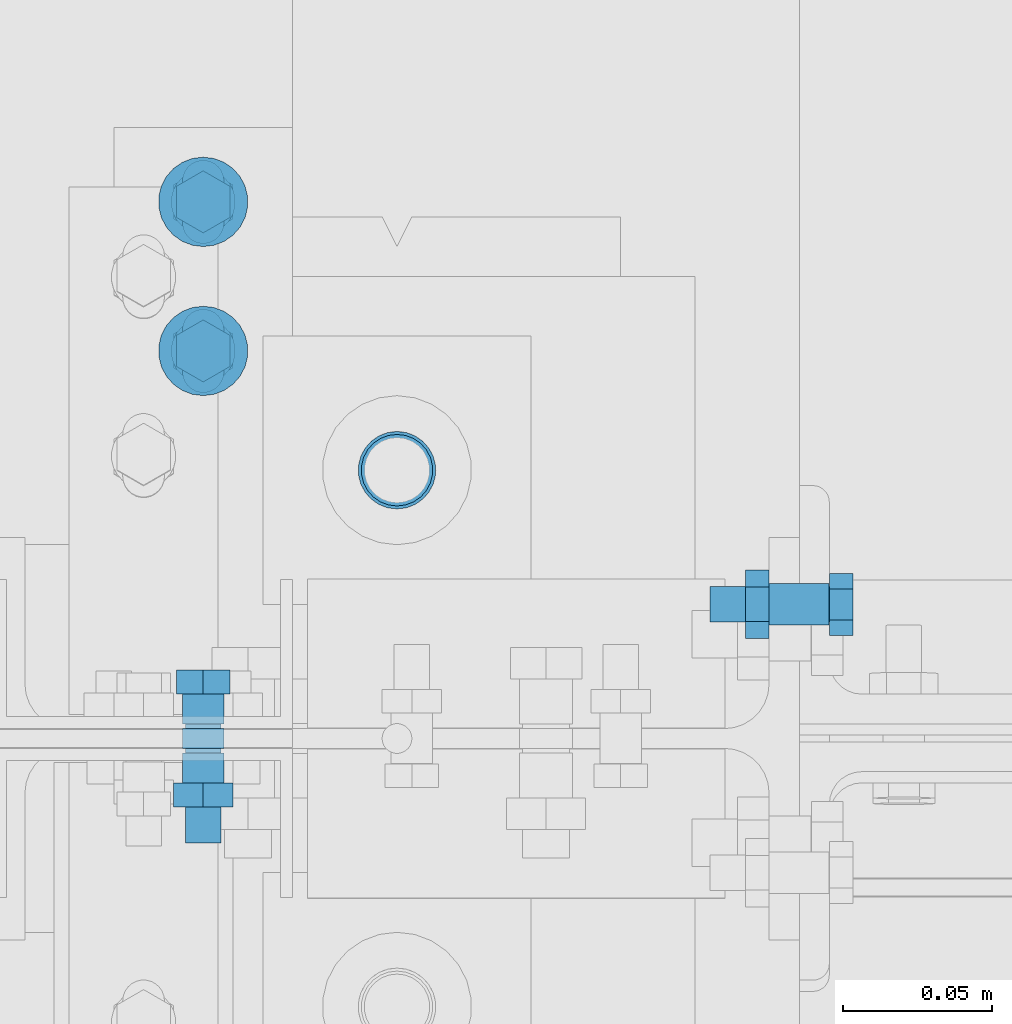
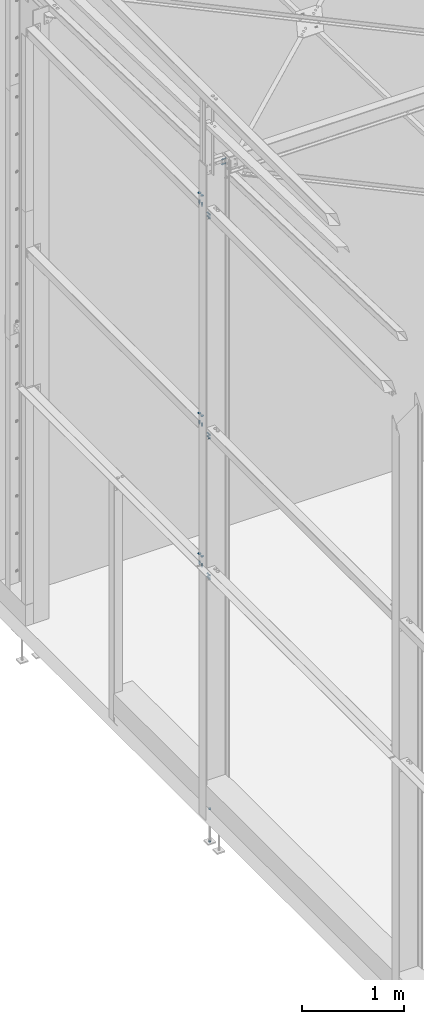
# One storey, part 238 of 362: 13 mechanical fasteners.
"""IFC2X3 building model written with IfcOpenShell, lengths in millimetres."""

import ifcopenshell
import ifcopenshell.guid

model = None  # the IFC model being written
_history = None  # IfcOwnerHistory: only IFC2X3 demands one
_inside = {}  # id of a spatial element -> (the spatial element, [elements in it])
_under = {}  # id of a project, library or spatial element -> (it, [spatial elements below it])
_declared = {}  # id of a project -> (the project, [libraries it declares])
_typed = {}  # id of a type object -> (the type object, [elements of that type])
_made_of = {}  # id of a material, layer set ... -> (it, [elements and type objects made of it])


def new_model(schema):
    """Start an empty IFC model of exactly this schema.

    Asked for "IFC4X3", IfcOpenShell would pick the latest addendum, in which some entities
    have other attributes; the version numbers below select the first issue.
    IFC2X3 requires an IfcOwnerHistory on every rooted entity: one is made here for all.
    """
    global model, _history
    if schema == "IFC4X3":
        model = ifcopenshell.file(schema_version=(4, 3, 0, 0))
    else:
        model = ifcopenshell.file(schema=schema)
    _inside.clear()
    _under.clear()
    _declared.clear()
    _typed.clear()
    _made_of.clear()
    _history = None
    if model.schema == "IFC2X3":
        org = make("IfcOrganization", Name="unknown")
        user = make(
            "IfcPersonAndOrganization",
            ThePerson=make("IfcPerson", FamilyName="unknown"),
            TheOrganization=org,
        )
        app = make(
            "IfcApplication",
            ApplicationDeveloper=org,
            Version="unknown",
            ApplicationFullName="unknown",
            ApplicationIdentifier="unknown",
        )
        _history = make(
            "IfcOwnerHistory",
            OwningUser=user,
            OwningApplication=app,
            ChangeAction="ADDED",
            CreationDate=0,
        )
    return model


def make(cls, **values):
    """One entity of the class cls with the attributes given. An attribute that is None is left unset."""
    return model.create_entity(
        cls, **{name: value for name, value in values.items() if value is not None}
    )


def rooted(cls, **values):
    """An entity with a GlobalId (a new one), such as an element, a storey or a relation."""
    return make(cls, GlobalId=ifcopenshell.guid.new(), OwnerHistory=_history, **values)


def si_unit(unit_type, name, prefix=None):
    """IfcSIUnit, for example si_unit("LENGTHUNIT", "METRE", prefix="MILLI")."""
    return make("IfcSIUnit", UnitType=unit_type, Prefix=prefix, Name=name)


def assignment(units):
    """IfcUnitAssignment: the units of a project."""
    return None if units is None else make("IfcUnitAssignment", Units=units)


def point(xyz):
    """IfcCartesianPoint."""
    return None if xyz is None else make("IfcCartesianPoint", Coordinates=xyz)


def direction(xyz):
    """IfcDirection."""
    return None if xyz is None else make("IfcDirection", DirectionRatios=xyz)


def frame(location, z_axis=None, x_axis=None):
    """IfcAxis2Placement3D, a coordinate frame: its origin and axes. An axis left out is left unset."""
    return make(
        "IfcAxis2Placement3D",
        Location=point(location),
        Axis=direction(z_axis),
        RefDirection=direction(x_axis),
    )


def frame_2d(location, x_axis=None):
    """IfcAxis2Placement2D, a coordinate frame in the plane: its origin and x axis."""
    return make(
        "IfcAxis2Placement2D", Location=point(location), RefDirection=direction(x_axis)
    )


def origin_with_axes():
    """The frame at (0, 0, 0) with the z axis (0, 0, 1) and the x axis (1, 0, 0) written out."""
    return frame((0.0, 0.0, 0.0), z_axis=(0.0, 0.0, 1.0), x_axis=(1.0, 0.0, 0.0))


def origin_2d_with_axis():
    """The frame at (0, 0) in the plane with the x axis (1, 0) written out."""
    return frame_2d((0.0, 0.0), x_axis=(1.0, 0.0))


def place(relative_to, where):
    """IfcLocalPlacement: puts the frame where relative to a parent placement (None: the world)."""
    return make(
        "IfcLocalPlacement", PlacementRelTo=relative_to, RelativePlacement=where
    )


def context(
    kind, dimensions, precision=None, world=None, true_north=None, identifier=None
):
    """IfcGeometricRepresentationContext, for example the 3D "Model" context."""
    return make(
        "IfcGeometricRepresentationContext",
        ContextIdentifier=identifier,
        ContextType=kind,
        CoordinateSpaceDimension=dimensions,
        Precision=precision,
        WorldCoordinateSystem=world,
        TrueNorth=true_north,
    )


def subcontext(parent, identifier, kind, view, scale=None):
    """IfcGeometricRepresentationSubContext, for example "Body" below "Model"."""
    return make(
        "IfcGeometricRepresentationSubContext",
        ContextIdentifier=identifier,
        ContextType=kind,
        ParentContext=parent,
        TargetScale=scale,
        TargetView=view,
    )


def project(units=None, contexts=None):
    """IfcProject with its units and contexts."""
    return rooted(
        "IfcProject",
        Name="project",
        RepresentationContexts=contexts,
        UnitsInContext=assignment(units),
    )


def spatial(cls, under=None, at=None, **own):
    """A site, building, storey or space (cls), placed at a placement, below another one or the project."""
    s = rooted(cls, ObjectPlacement=at, **own)
    if under is not None:
        _under.setdefault(under.id(), (under, []))[1].append(s)
    return s


def polyline(points):
    """IfcPolyline through the points."""
    return make("IfcPolyline", Points=[point(p) for p in points])


def circle_curve(where, radius):
    """IfcCircle in the frame where."""
    return make("IfcCircle", Position=where, Radius=radius)


def parameter(value):
    """IfcParameterValue: where a trimmed curve begins or ends, as a parameter of its basis curve."""
    return model.create_entity("IfcParameterValue", value)


def trimmed(basis, trim1, trim2, sense, master):
    """IfcTrimmedCurve: the piece of a basis curve between two trims."""
    return make(
        "IfcTrimmedCurve",
        BasisCurve=basis,
        Trim1=trim1,
        Trim2=trim2,
        SenseAgreement=sense,
        MasterRepresentation=master,
    )


def segment(curve, same_sense, transition):
    """IfcCompositeCurveSegment."""
    return make(
        "IfcCompositeCurveSegment",
        Transition=transition,
        SameSense=same_sense,
        ParentCurve=curve,
    )


def composite_curve(segments, self_intersect=None):
    """IfcCompositeCurve: segments joined end to end."""
    return make("IfcCompositeCurve", Segments=segments, SelfIntersect=self_intersect)


def profile(cls, at=None, kind="AREA", **sizes):
    """A parametric profile (cls). Its sizes go by their IFC names, for example OverallWidth=200.0."""
    return make(cls, ProfileType=kind, Position=at, **sizes)


def circle(**sizes):
    """IfcCircleProfileDef."""
    return profile("IfcCircleProfileDef", **sizes)


def outline(outer, holes=None, kind="AREA"):
    """IfcArbitraryClosedProfileDef: a profile drawn as a closed curve; with holes, ...WithVoids."""
    if holes is None:
        return make("IfcArbitraryClosedProfileDef", ProfileType=kind, OuterCurve=outer)
    return make(
        "IfcArbitraryProfileDefWithVoids",
        ProfileType=kind,
        OuterCurve=outer,
        InnerCurves=holes,
    )


def extrude(swept, where, along, depth):
    """IfcExtrudedAreaSolid: the profile swept, set in the frame where, extruded along a direction by depth."""
    return make(
        "IfcExtrudedAreaSolid",
        SweptArea=swept,
        Position=where,
        ExtrudedDirection=direction(along),
        Depth=depth,
    )


def shape(context_of_items, identifier, shape_type, items):
    """IfcShapeRepresentation: the items that make up one representation, for example the "Body"."""
    return make(
        "IfcShapeRepresentation",
        ContextOfItems=context_of_items,
        RepresentationIdentifier=identifier,
        RepresentationType=shape_type,
        Items=items,
    )


def source(mapping_origin, context_of_items, identifier, shape_type, items):
    """IfcRepresentationMap: a shape defined once, which mapped items show again and again."""
    return make(
        "IfcRepresentationMap",
        MappingOrigin=mapping_origin,
        MappedRepresentation=shape(context_of_items, identifier, shape_type, items),
    )


def transform(
    local_origin,
    x_axis=None,
    y_axis=None,
    z_axis=None,
    scale=None,
    scale2=None,
    scale3=None,
    uniform=True,
):
    """IfcCartesianTransformationOperator3D, or its non-uniform kind. x_axis, y_axis, z_axis: its Axis1, 2, 3."""
    if uniform:
        return make(
            "IfcCartesianTransformationOperator3D",
            Axis1=direction(x_axis),
            Axis2=direction(y_axis),
            LocalOrigin=point(local_origin),
            Scale=scale,
            Axis3=direction(z_axis),
        )
    return make(
        "IfcCartesianTransformationOperator3DnonUniform",
        Axis1=direction(x_axis),
        Axis2=direction(y_axis),
        LocalOrigin=point(local_origin),
        Scale=scale,
        Axis3=direction(z_axis),
        Scale2=scale2,
        Scale3=scale3,
    )


def mapped(mapping_source, mapping_target):
    """IfcMappedItem: shows the shape of a source again, moved by a transform."""
    return make(
        "IfcMappedItem", MappingSource=mapping_source, MappingTarget=mapping_target
    )


def material(Name=None, Category=None):
    """IfcMaterial."""
    return make("IfcMaterial", Name=Name, Category=Category)


def made_of(thing, what):
    """Note that an element or type object is made of a material, layer set ...; save() writes the relation."""
    if what is not None:
        _made_of.setdefault(what.id(), (what, []))[1].append(thing)
    return thing


def type_object(cls, material=None, **own):
    """A type object (cls), such as IfcWallType, which elements share."""
    return made_of(rooted(cls, **own), material)


def element(
    cls,
    number,
    at=None,
    inside=None,
    cuts=None,
    type_object=None,
    material=None,
    context=None,
    identifier="Body",
    shape_type=None,
    held_by="IfcProductDefinitionShape",
    body=None,
    shapes=None,
    **own,
):
    """One element of the class cls, such as IfcWall. Its Tag is "e" and its number.

    at: its placement. inside: the storey or other place that contains it. cuts: it is an
    opening in that element (IfcRelVoidsElement). A single representation is given by context,
    identifier, shape_type and body (its items); several are given by shapes. held_by: the class
    of the entity that holds the representations. save() writes the other relations.
    """
    e = rooted(cls, Tag="e%d" % number, ObjectPlacement=at, **own)
    if body is not None:
        shapes = [shape(context, identifier, shape_type, body)]
    if shapes is not None:
        e.Representation = make(held_by, Representations=shapes)
    if inside is not None:
        _inside.setdefault(inside.id(), (inside, []))[1].append(e)
    if cuts is not None:
        rooted(
            "IfcRelVoidsElement", RelatingBuildingElement=cuts, RelatedOpeningElement=e
        )
    if type_object is not None:
        _typed.setdefault(type_object.id(), (type_object, []))[1].append(e)
    return made_of(e, material)


def aggregate(whole, parts):
    """IfcRelAggregates: a whole, such as a stair, and the parts it consists of."""
    return rooted("IfcRelAggregates", RelatingObject=whole, RelatedObjects=parts)


def save(model, path):
    """Write the relations noted so far, then the file.

    IfcRelAggregates (storeys below a building ...), IfcRelContainedInSpatialStructure (elements
    in a storey), IfcRelDefinesByType, IfcRelAssociatesMaterial and IfcRelDeclares: one each for
    every whole, place, type object, material and project.
    """
    for whole, parts in _under.values():
        aggregate(whole, parts)
    for where, things in _inside.values():
        rooted(
            "IfcRelContainedInSpatialStructure",
            RelatedElements=things,
            RelatingStructure=where,
        )
    for kind, things in _typed.values():
        rooted("IfcRelDefinesByType", RelatedObjects=things, RelatingType=kind)
    for what, things in _made_of.values():
        rooted("IfcRelAssociatesMaterial", RelatedObjects=things, RelatingMaterial=what)
    for by, libraries in _declared.values():
        rooted("IfcRelDeclares", RelatingContext=by, RelatedDefinitions=libraries)
    model.write(path)


model = new_model("IFC2X3")

# Units and contexts
model_context = context("Model", 3, precision=1e-05, world=origin_with_axes())
body_context = subcontext(model_context, "Body", "Model", "MODEL_VIEW")
ifc_project = project(units=[si_unit("LENGTHUNIT", "METRE", prefix="MILLI"), si_unit("AREAUNIT", "SQUARE_METRE"), si_unit("VOLUMEUNIT", "CUBIC_METRE"), si_unit("MASSUNIT", "GRAM", prefix="KILO"), si_unit("TIMEUNIT", "SECOND"), si_unit("PLANEANGLEUNIT", "RADIAN"), si_unit("SOLIDANGLEUNIT", "STERADIAN"), si_unit("THERMODYNAMICTEMPERATUREUNIT", "DEGREE_CELSIUS"), si_unit("LUMINOUSINTENSITYUNIT", "LUMEN")], contexts=[model_context])

# Site, building, storey
site_placement = place(None, origin_with_axes())
site = spatial("IfcSite", under=ifc_project, at=site_placement, Name="Undefined", CompositionType="ELEMENT")
building_placement = place(site_placement, origin_with_axes())
building = spatial("IfcBuilding", under=site, at=building_placement, Name="Undefined", CompositionType="ELEMENT")
storey_placement = place(building_placement, origin_with_axes())
storey = spatial("IfcBuildingStorey", under=building, at=storey_placement, Name="Undefined", CompositionType="ELEMENT", Elevation=0.0)

# Mechanical fasteners
ifc_material_1 = material(Name="6.8")
mechanical_fastener_type = type_object("IfcMechanicalFastenerType", Name="Bolt assembly")
shared_shape_1 = source(origin_with_axes(), body_context, "Body", "SweptSolid", [
    extrude(circle(Radius=15.0, at=origin_2d_with_axis()), frame((0.0, 0.0, 0.0), z_axis=(0.0, 1.0, 0.0), x_axis=(1.0, 0.0, 0.0)), (0.0, 0.0, 1.0), 4.1),
])
for number, where, z_axis, x_axis, name in (
    (1, (-110.000005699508, 11580.0000009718, 2859.9999839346), (1.0, 0.0, 0.0), (0.0, -1.0, 0.0), "Bolt assembly"),
    (2, (-110.000005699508, 11580.0000009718, 4549.99998404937), (1.0, 0.0, 0.0), (0.0, -1.0, 0.0), "Bolt assembly"),
    (3, (-110.000005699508, 11580.0000009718, 7200.0), (1.0, 0.0, 0.0), (0.0, -1.0, 0.0), "Bolt assembly"),
):
    element("IfcMechanicalFastener", number, at=place(storey_placement, frame(where, z_axis=z_axis, x_axis=x_axis)), inside=storey, type_object=mechanical_fastener_type, material=ifc_material_1, Name=name, NominalDiameter=30.0, NominalLength=4.0, context=body_context, shape_type="MappedRepresentation", body=[
        mapped(shared_shape_1, transform((0.0, 0.0, 0.0))),
        mapped(shared_shape_1, transform((49.9999999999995, 0.0, -3.63797880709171e-12))),
    ])
ifc_material_2 = material(Name="8.8-SB-ZINGUE")
shared_shape_2 = source(origin_with_axes(), body_context, "Body", "SweptSolid", [
    extrude(circle(Radius=7.0, at=origin_2d_with_axis()), frame((0.0, -3.29999884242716, 0.0), z_axis=(0.0, 1.0, 0.0), x_axis=(1.0, 0.0, 0.0)), (0.0, 0.0, 1.0), 6.6),
    extrude(circle(Radius=7.0, at=origin_2d_with_axis()), frame((0.0, -14.899999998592, 0.0), z_axis=(0.0, 1.0, 0.0), x_axis=(1.0, 0.0, 0.0)), (0.0, 0.0, 1.0), 10.0),
    extrude(circle(Radius=7.0, at=origin_2d_with_axis()), frame((0.0, 4.9000000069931, 0.0), z_axis=(0.0, 1.0, 0.0), x_axis=(1.0, 0.0, 0.0)), (0.0, 0.0, 1.0), 10.1),
    extrude(outline(polyline([(10.39230484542, 0.0), (5.19615242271, 9.00000000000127), (-5.19615242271, 9.00000000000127), (-10.39230484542, 0.0), (-5.19615242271, -9.00000000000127), (5.19615242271, -9.00000000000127), (10.39230484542, 0.0)])), frame((0.0, -22.919999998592, 0.0), z_axis=(0.0, 1.0, 0.0), x_axis=(1.0, 0.0, 0.0)), (0.0, 0.0, 1.0), 7.92),
    extrude(circle(Radius=6.0, at=origin_2d_with_axis()), frame((0.0, -14.999999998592, 0.0), z_axis=(0.0, 1.0, 0.0), x_axis=(1.0, 0.0, 0.0)), (0.0, 0.0, 1.0), 50.0),
    extrude(outline(polyline([(11.5008173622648, 0.0), (5.7504086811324, 9.96000000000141), (-5.7504086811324, 9.96000000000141), (-11.5008173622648, 0.0), (-5.7504086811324, -9.96000000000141), (5.7504086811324, -9.96000000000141), (11.5008173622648, 0.0)])), frame((0.0, 15.0000000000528, 0.0), z_axis=(0.0, 1.0, 0.0), x_axis=(1.0, 0.0, 0.0)), (0.0, 0.0, 1.0), 7.92),
])
mechanical_fastener_1_placement = place(storey_placement, frame((-110.000007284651, 11399.9999983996, 2679.9999839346), z_axis=(1.0, 0.0, 0.0), x_axis=(0.0, 0.0, 1.0)))
element("IfcMechanicalFastener", 4, at=mechanical_fastener_1_placement, inside=storey, type_object=mechanical_fastener_type, material=ifc_material_2, Name="Bolt assembly", NominalDiameter=12.0, NominalLength=50.0, context=body_context, shape_type="MappedRepresentation", body=[
    mapped(shared_shape_2, transform((0.0, 0.0, 0.0))),
    mapped(shared_shape_2, transform((40.0, 0.0, 0.0))),
])
shared_shape_3 = source(origin_with_axes(), body_context, "Body", "SweptSolid", [
    extrude(circle(Radius=7.0, at=origin_2d_with_axis()), frame((0.0, -3.89999843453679, 0.0), z_axis=(0.0, 1.0, 0.0), x_axis=(1.0, 0.0, 0.0)), (0.0, 0.0, 1.0), 4.0),
    extrude(outline(composite_curve([segment(polyline([(-7.0, 7.0), (7.0, 7.0)]), True, "CONTINUOUS"), segment(trimmed(circle_curve(frame_2d((7.0, 0.0), x_axis=(0.0, 1.0)), 7.0), [parameter(0.0)], [parameter(3.14159265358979)], False, "PARAMETER"), True, "CONTINUOUS"), segment(polyline([(7.0, -7.0), (-7.0, -7.0)]), True, "CONTINUOUS"), segment(trimmed(circle_curve(frame_2d((-7.0, 0.0), x_axis=(0.0, -1.0)), 7.0), [parameter(0.0)], [parameter(3.14159265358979)], False, "PARAMETER"), True, "DISCONTINUOUS")], self_intersect=False)), frame((0.0, -0.100011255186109, 0.0), z_axis=(0.0, 1.0, 0.0), x_axis=(1.0, 0.0, 0.0)), (0.0, 0.0, 1.0), 10.1),
    extrude(outline(polyline([(10.39230484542, 0.0), (5.19615242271, 9.00000000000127), (-5.19615242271, 9.00000000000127), (-10.39230484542, 0.0), (-5.19615242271, -9.00000000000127), (5.19615242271, -9.00000000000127), (10.39230484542, 0.0)])), frame((0.0, -11.9199984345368, 0.0), z_axis=(0.0, 1.0, 0.0), x_axis=(1.0, 0.0, 0.0)), (0.0, 0.0, 1.0), 7.92),
    extrude(circle(Radius=6.0, at=origin_2d_with_axis()), frame((0.0, -3.99999923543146, 0.0), z_axis=(0.0, 1.0, 0.0), x_axis=(1.0, 0.0, 0.0)), (0.0, 0.0, 1.0), 40.0),
    extrude(circle(Radius=10.8, at=origin_2d_with_axis()), frame((0.0, 10.0000000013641, 0.0), z_axis=(0.0, 1.0, 0.0), x_axis=(1.0, 0.0, 0.0)), (0.0, 0.0, 1.0), 3.96),
    extrude(outline(polyline([(11.5008173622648, 0.0), (5.7504086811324, 9.96000000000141), (-5.7504086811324, 9.96000000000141), (-11.5008173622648, 0.0), (-5.7504086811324, -9.96000000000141), (5.7504086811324, -9.96000000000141), (11.5008173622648, 0.0)])), frame((0.0, 13.96, 0.0), z_axis=(0.0, 1.0, 0.0), x_axis=(1.0, 0.0, 0.0)), (0.0, 0.0, 1.0), 7.92),
])
mechanical_fastener_2_placement = place(storey_placement, frame((-110.00000569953, 11580.0000009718, 2759.9999839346), z_axis=(1.0, 0.0, 0.0), x_axis=(0.0, -1.0, 0.0)))
element("IfcMechanicalFastener", 5, at=mechanical_fastener_2_placement, inside=storey, type_object=mechanical_fastener_type, material=ifc_material_2, Name="Bolt assembly", NominalDiameter=12.0, NominalLength=40.0, context=body_context, shape_type="MappedRepresentation", body=[
    mapped(shared_shape_3, transform((0.0, 0.0, 0.0))),
    mapped(shared_shape_3, transform((49.9999999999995, 0.0, -3.63797880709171e-12))),
])
shared_shape_4 = source(origin_with_axes(), body_context, "Body", "SweptSolid", [
    extrude(circle(Radius=7.0, at=origin_2d_with_axis()), frame((0.0, -3.29999884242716, 0.0), z_axis=(0.0, 1.0, 0.0), x_axis=(1.0, 0.0, 0.0)), (0.0, 0.0, 1.0), 6.6),
    extrude(circle(Radius=7.0, at=origin_2d_with_axis()), frame((0.0, 4.9000000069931, 0.0), z_axis=(0.0, 1.0, 0.0), x_axis=(1.0, 0.0, 0.0)), (0.0, 0.0, 1.0), 10.1),
    extrude(circle(Radius=7.0, at=origin_2d_with_axis()), frame((0.0, -14.899999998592, 0.0), z_axis=(0.0, 1.0, 0.0), x_axis=(1.0, 0.0, 0.0)), (0.0, 0.0, 1.0), 10.0),
    extrude(outline(polyline([(10.39230484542, 0.0), (5.19615242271, 9.00000000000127), (-5.19615242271, 9.00000000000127), (-10.39230484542, 0.0), (-5.19615242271, -9.00000000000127), (5.19615242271, -9.00000000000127), (10.39230484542, 0.0)])), frame((0.0, -22.919999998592, 0.0), z_axis=(0.0, 1.0, 0.0), x_axis=(1.0, 0.0, 0.0)), (0.0, 0.0, 1.0), 7.92),
    extrude(circle(Radius=6.0, at=origin_2d_with_axis()), frame((0.0, -14.999999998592, 0.0), z_axis=(0.0, 1.0, 0.0), x_axis=(1.0, 0.0, 0.0)), (0.0, 0.0, 1.0), 50.0),
    extrude(outline(polyline([(11.5008173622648, 0.0), (5.7504086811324, 9.96000000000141), (-5.7504086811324, 9.96000000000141), (-11.5008173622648, 0.0), (-5.7504086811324, -9.96000000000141), (5.7504086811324, -9.96000000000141), (11.5008173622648, 0.0)])), frame((0.0, 15.0000000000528, 0.0), z_axis=(0.0, 1.0, 0.0), x_axis=(1.0, 0.0, 0.0)), (0.0, 0.0, 1.0), 7.92),
])
for number, where, z_axis, x_axis, name in (
    (6, (-110.000007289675, 11399.9999983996, 4369.99998404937), (1.0, 0.0, 0.0), (0.0, 0.0, 1.0), "Bolt assembly"),
    (7, (-110.000007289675, 11399.9999983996, 7020.0), (1.0, 0.0, 0.0), (0.0, 0.0, 1.0), "Bolt assembly"),
):
    element("IfcMechanicalFastener", number, at=place(storey_placement, frame(where, z_axis=z_axis, x_axis=x_axis)), inside=storey, type_object=mechanical_fastener_type, material=ifc_material_2, Name=name, NominalDiameter=12.0, NominalLength=50.0, context=body_context, shape_type="MappedRepresentation", body=[
        mapped(shared_shape_4, transform((0.0, 0.0, 0.0))),
        mapped(shared_shape_4, transform((40.0, 0.0, 0.0))),
    ])
shared_shape_5 = source(origin_with_axes(), body_context, "Body", "SweptSolid", [
    extrude(circle(Radius=7.0, at=origin_2d_with_axis()), frame((0.0, -3.89999843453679, 0.0), z_axis=(0.0, 1.0, 0.0), x_axis=(1.0, 0.0, 0.0)), (0.0, 0.0, 1.0), 4.0),
    extrude(outline(composite_curve([segment(polyline([(-7.0, 7.0), (7.0, 7.0)]), True, "CONTINUOUS"), segment(trimmed(circle_curve(frame_2d((7.0, 0.0), x_axis=(0.0, 1.0)), 7.0), [parameter(0.0)], [parameter(3.14159265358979)], False, "PARAMETER"), True, "CONTINUOUS"), segment(polyline([(7.0, -7.0), (-7.0, -7.0)]), True, "CONTINUOUS"), segment(trimmed(circle_curve(frame_2d((-7.0, 0.0), x_axis=(0.0, -1.0)), 7.0), [parameter(0.0)], [parameter(3.14159265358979)], False, "PARAMETER"), True, "DISCONTINUOUS")], self_intersect=False)), frame((0.0, -0.100011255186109, 0.0), z_axis=(0.0, 1.0, 0.0), x_axis=(1.0, 0.0, 0.0)), (0.0, 0.0, 1.0), 10.1),
    extrude(outline(polyline([(10.39230484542, 0.0), (5.19615242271, 9.00000000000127), (-5.19615242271, 9.00000000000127), (-10.39230484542, 0.0), (-5.19615242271, -9.00000000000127), (5.19615242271, -9.00000000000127), (10.39230484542, 0.0)])), frame((0.0, -11.9199984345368, 0.0), z_axis=(0.0, 1.0, 0.0), x_axis=(1.0, 0.0, 0.0)), (0.0, 0.0, 1.0), 7.92),
    extrude(circle(Radius=6.0, at=origin_2d_with_axis()), frame((0.0, -3.99999923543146, 0.0), z_axis=(0.0, 1.0, 0.0), x_axis=(1.0, 0.0, 0.0)), (0.0, 0.0, 1.0), 40.0),
    extrude(circle(Radius=10.8, at=origin_2d_with_axis()), frame((0.0, 10.0000000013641, 0.0), z_axis=(0.0, 1.0, 0.0), x_axis=(1.0, 0.0, 0.0)), (0.0, 0.0, 1.0), 3.96),
    extrude(outline(polyline([(11.5008173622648, 0.0), (5.7504086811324, 9.96000000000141), (-5.7504086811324, 9.96000000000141), (-11.5008173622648, 0.0), (-5.7504086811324, -9.96000000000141), (5.7504086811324, -9.96000000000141), (11.5008173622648, 0.0)])), frame((0.0, 13.96, 0.0), z_axis=(0.0, 1.0, 0.0), x_axis=(1.0, 0.0, 0.0)), (0.0, 0.0, 1.0), 7.92),
])
mechanical_fastener_3_placement = place(storey_placement, frame((-110.00000569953, 11580.0000009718, 4449.99998404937), z_axis=(1.0, 0.0, 0.0), x_axis=(0.0, -1.0, 0.0)))
element("IfcMechanicalFastener", 8, at=mechanical_fastener_3_placement, inside=storey, type_object=mechanical_fastener_type, material=ifc_material_2, Name="Bolt assembly", NominalDiameter=12.0, NominalLength=40.0, context=body_context, shape_type="MappedRepresentation", body=[
    mapped(shared_shape_5, transform((0.0, 0.0, 0.0))),
    mapped(shared_shape_5, transform((49.9999999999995, 0.0, -3.63797880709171e-12))),
])
shared_shape_6 = source(origin_with_axes(), body_context, "Body", "SweptSolid", [
    extrude(circle(Radius=7.0, at=origin_2d_with_axis()), frame((0.0, -3.89999843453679, 0.0), z_axis=(0.0, 1.0, 0.0), x_axis=(1.0, 0.0, 0.0)), (0.0, 0.0, 1.0), 4.0),
    extrude(outline(composite_curve([segment(polyline([(-7.0, 7.0), (7.0, 7.0)]), True, "CONTINUOUS"), segment(trimmed(circle_curve(frame_2d((7.0, 0.0), x_axis=(0.0, 1.0)), 7.0), [parameter(0.0)], [parameter(3.14159265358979)], False, "PARAMETER"), True, "CONTINUOUS"), segment(polyline([(7.0, -7.0), (-7.0, -7.0)]), True, "CONTINUOUS"), segment(trimmed(circle_curve(frame_2d((-7.0, 0.0), x_axis=(0.0, -1.0)), 7.0), [parameter(0.0)], [parameter(3.14159265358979)], False, "PARAMETER"), True, "DISCONTINUOUS")], self_intersect=False)), frame((0.0, -0.100011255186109, 0.0), z_axis=(0.0, 1.0, 0.0), x_axis=(1.0, 0.0, 0.0)), (0.0, 0.0, 1.0), 10.1),
    extrude(outline(polyline([(10.39230484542, 0.0), (5.19615242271, 9.00000000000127), (-5.19615242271, 9.00000000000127), (-10.39230484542, 0.0), (-5.19615242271, -9.00000000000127), (5.19615242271, -9.00000000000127), (10.39230484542, 0.0)])), frame((0.0, -11.9199984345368, 0.0), z_axis=(0.0, 1.0, 0.0), x_axis=(1.0, 0.0, 0.0)), (0.0, 0.0, 1.0), 7.92),
    extrude(circle(Radius=6.0, at=origin_2d_with_axis()), frame((0.0, -3.99999923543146, 0.0), z_axis=(0.0, 1.0, 0.0), x_axis=(1.0, 0.0, 0.0)), (0.0, 0.0, 1.0), 40.0),
    extrude(circle(Radius=10.8, at=origin_2d_with_axis()), frame((0.0, 10.0000000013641, 0.0), z_axis=(0.0, 1.0, 0.0), x_axis=(1.0, 0.0, 0.0)), (0.0, 0.0, 1.0), 3.96),
    extrude(outline(polyline([(11.5008173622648, 0.0), (5.7504086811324, 9.96000000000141), (-5.7504086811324, 9.96000000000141), (-11.5008173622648, 0.0), (-5.7504086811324, -9.96000000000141), (5.7504086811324, -9.96000000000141), (11.5008173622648, 0.0)])), frame((0.0, 13.96, 0.0), z_axis=(0.0, 1.0, 0.0), x_axis=(1.0, 0.0, 0.0)), (0.0, 0.0, 1.0), 7.92),
])
mechanical_fastener_4_placement = place(storey_placement, frame((-110.00000569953, 11580.0000009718, 7100.0), z_axis=(1.0, 0.0, 0.0), x_axis=(0.0, -1.0, 0.0)))
element("IfcMechanicalFastener", 9, at=mechanical_fastener_4_placement, inside=storey, type_object=mechanical_fastener_type, material=ifc_material_2, Name="Bolt assembly", NominalDiameter=12.0, NominalLength=40.0, context=body_context, shape_type="MappedRepresentation", body=[
    mapped(shared_shape_6, transform((0.0, 0.0, 0.0))),
    mapped(shared_shape_6, transform((49.9999999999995, 0.0, -3.63797880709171e-12))),
])
shared_shape_7 = source(origin_with_axes(), body_context, "Body", "SweptSolid", [
    extrude(circle(Radius=7.0, at=origin_2d_with_axis()), frame((0.0, -0.100011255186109, 0.0), z_axis=(0.0, 1.0, 0.0), x_axis=(1.0, 0.0, 0.0)), (0.0, 0.0, 1.0), 10.3),
    extrude(circle(Radius=7.0, at=origin_2d_with_axis()), frame((0.0, -9.9, 0.0), z_axis=(0.0, 1.0, 0.0), x_axis=(1.0, 0.0, 0.0)), (0.0, 0.0, 1.0), 10.0),
    extrude(outline(polyline([(10.39230484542, 0.0), (5.19615242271, 9.00000000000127), (-5.19615242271, 9.00000000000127), (-10.39230484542, 0.0), (-5.19615242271, -9.00000000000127), (5.19615242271, -9.00000000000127), (10.39230484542, 0.0)])), frame((0.0, -17.92, 0.0), z_axis=(0.0, 1.0, 0.0), x_axis=(1.0, 0.0, 0.0)), (0.0, 0.0, 1.0), 7.92),
    extrude(circle(Radius=6.0, at=origin_2d_with_axis()), frame((0.0, -10.0000010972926, 0.0), z_axis=(0.0, 1.0, 0.0), x_axis=(1.0, 0.0, 0.0)), (0.0, 0.0, 1.0), 40.0),
    extrude(outline(polyline([(11.5008173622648, 0.0), (5.7504086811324, 9.96000000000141), (-5.7504086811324, 9.96000000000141), (-11.5008173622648, 0.0), (-5.7504086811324, -9.96000000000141), (5.7504086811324, -9.96000000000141), (11.5008173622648, 0.0)])), frame((0.0, 10.1999997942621, 0.0), z_axis=(0.0, 1.0, 0.0), x_axis=(1.0, 0.0, 0.0)), (0.0, 0.0, 1.0), 7.92),
])
for number, where, z_axis, x_axis, name in (
    (10, (89.9999986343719, 11445.0005139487, 7620.28824936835), (0.0, 0.0, 1.0), (0.0, 1.0, 0.0), "Bolt assembly"),
    (11, (89.9999986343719, 11445.0005139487, 7560.25862750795), (0.0, 0.0, 1.0), (0.0, 1.0, 0.0), "Bolt assembly"),
):
    element("IfcMechanicalFastener", number, at=place(storey_placement, frame(where, z_axis=z_axis, x_axis=x_axis)), inside=storey, type_object=mechanical_fastener_type, material=ifc_material_2, Name=name, NominalDiameter=12.0, NominalLength=40.0, context=body_context, shape_type="MappedRepresentation", body=[
        mapped(shared_shape_7, transform((0.0, 0.0, 0.0))),
    ])
shared_shape_8 = source(origin_with_axes(), body_context, "Body", "SweptSolid", [
    extrude(circle(Radius=13.0, at=origin_2d_with_axis()), frame((0.0, -14.999999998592, 0.0), z_axis=(0.0, 1.0, 0.0), x_axis=(1.0, 0.0, 0.0)), (0.0, 0.0, 1.0), 15.1),
])
mechanical_fastener_5_placement = place(storey_placement, frame((-45.0, 11489.9971504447, -185.0), z_axis=(1.0, 0.0, 0.0), x_axis=(0.0, -1.0, 0.0)))
element("IfcMechanicalFastener", 12, at=mechanical_fastener_5_placement, inside=storey, type_object=mechanical_fastener_type, material=ifc_material_1, Name="Bolt assembly", NominalDiameter=24.0, NominalLength=15.0, context=body_context, shape_type="MappedRepresentation", body=[
    mapped(shared_shape_8, transform((0.0, 0.0, 0.0))),
])
shared_shape_9 = source(origin_with_axes(), body_context, "Body", "SweptSolid", [
    extrude(circle(Radius=12.0, at=origin_2d_with_axis()), frame((0.0, -14.999999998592, 0.0), z_axis=(0.0, 1.0, 0.0), x_axis=(1.0, 0.0, 0.0)), (0.0, 0.0, 1.0), 15.1),
])
mechanical_fastener_6_placement = place(storey_placement, frame((-45.0, 11489.9971504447, -580.0), z_axis=(1.0, 0.0, 0.0), x_axis=(0.0, -1.0, 0.0)))
element("IfcMechanicalFastener", 13, at=mechanical_fastener_6_placement, inside=storey, type_object=mechanical_fastener_type, material=ifc_material_1, Name="Bolt assembly", NominalDiameter=22.0, NominalLength=15.0, context=body_context, shape_type="MappedRepresentation", body=[
    mapped(shared_shape_9, transform((0.0, 0.0, 0.0))),
])

save(model, "model.ifc")
